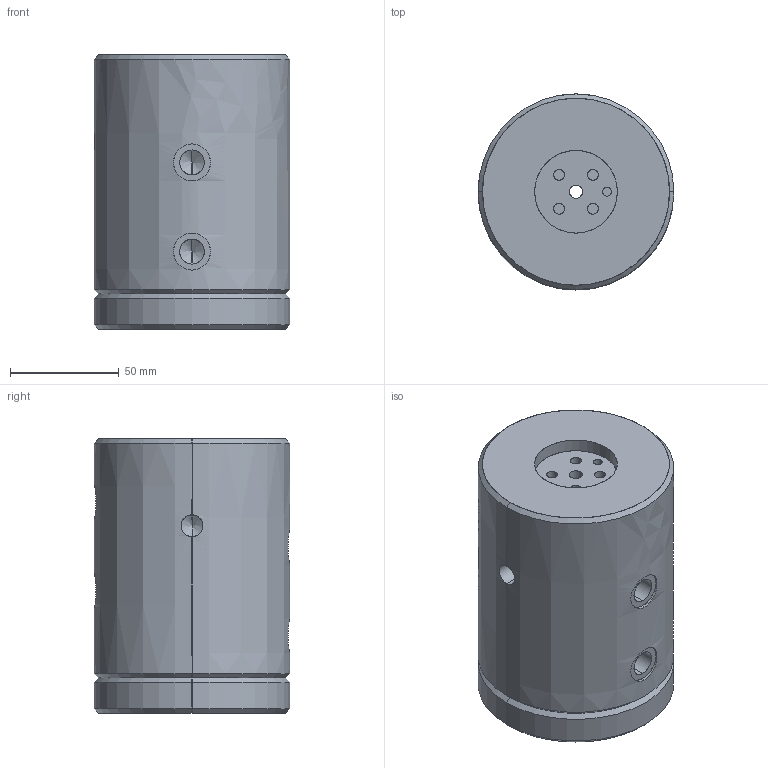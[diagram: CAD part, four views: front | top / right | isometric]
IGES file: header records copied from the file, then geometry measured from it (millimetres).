
Start section: SolidWorks IGES file using analytic representation for surfaces
Global section: file name: E:\karthik\CLASYS\Clasys 3D\Hyraulics\0801-0101 Rotary Distributor\ROTARY DISTRIBUTOR.IGS; native system: SolidWorks 2010; preprocessor: SolidWorks 2010; author: karthik; date: 130918.150441; units: millimetre
Bounding box: 90 x 90 x 126.19 mm (x, y, z)
Surface area: 57256.2 mm2 (no closed solid volume)
Topology: 0 solids, 0 shells, 77 faces, 1624 edges, 1610 vertices
Faces by surface type: revolution 64, bspline 13
